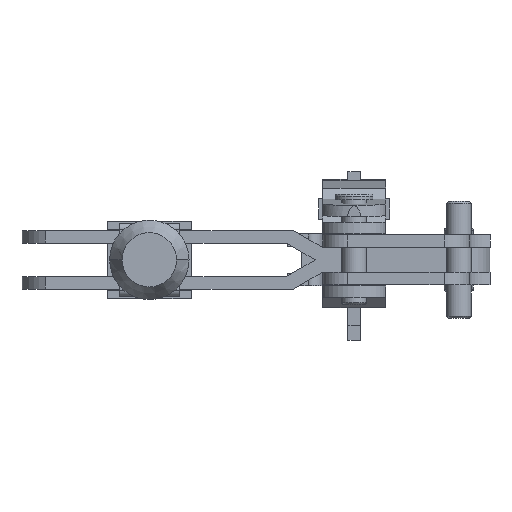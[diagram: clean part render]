
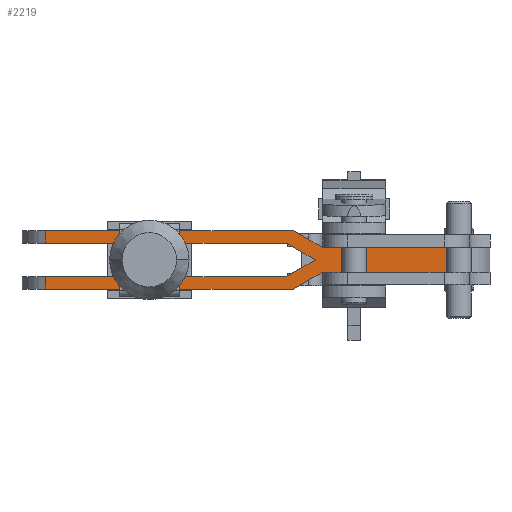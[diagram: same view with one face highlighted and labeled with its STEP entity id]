
A CAD part, front view. The second image highlights one B-rep face of the part: STEP entity #2219.
In plain terms, the highlighted planar face has unit normal (0, -1, 0).
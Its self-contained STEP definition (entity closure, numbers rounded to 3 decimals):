
#1913 = EDGE_CURVE( '', #2259, #5529, #5587, .T. );
#2087 = VERTEX_POINT( '', #5774 );
#2187 = EDGE_CURVE( '', #2515, #4059, #5887, .T. );
#2219 = ADVANCED_FACE( '', ( #5923 ), #5924, .T. );
#2253 = EDGE_CURVE( '', #4641, #2087, #5960, .T. );
#2259 = VERTEX_POINT( '', #5966 );
#2473 = EDGE_CURVE( '', #2919, #2515, #6205, .T. );
#2491 = EDGE_CURVE( '', #3549, #2919, #6224, .T. );
#2515 = VERTEX_POINT( '', #6250 );
#2881 = VERTEX_POINT( '', #6666 );
#2919 = VERTEX_POINT( '', #6706 );
#3335 = EDGE_CURVE( '', #4641, #4857, #7162, .T. );
#3495 = VERTEX_POINT( '', #7340 );
#3549 = VERTEX_POINT( '', #7402 );
#3555 = EDGE_CURVE( '', #4059, #4311, #7408, .T. );
#3627 = EDGE_CURVE( '', #2881, #3961, #7487, .T. );
#3949 = EDGE_CURVE( '', #3495, #2087, #7842, .T. );
#3961 = VERTEX_POINT( '', #7855 );
#4059 = VERTEX_POINT( '', #7966 );
#4311 = VERTEX_POINT( '', #8243 );
#4615 = EDGE_CURVE( '', #4857, #3961, #8587, .T. );
#4641 = VERTEX_POINT( '', #8616 );
#4857 = VERTEX_POINT( '', #8856 );
#4885 = EDGE_CURVE( '', #2881, #2259, #8885, .T. );
#4981 = EDGE_CURVE( '', #4311, #3495, #8994, .T. );
#5129 = EDGE_CURVE( '', #5529, #3549, #9158, .T. );
#5529 = VERTEX_POINT( '', #9601 );
#5587 = LINE( '', #9666, #9667 );
#5774 = CARTESIAN_POINT( '', ( 34.359, 50.5, -3. ) );
#5887 = LINE( '', #10090, #10091 );
#5923 = FACE_OUTER_BOUND( '', #10152, .T. );
#5924 = PLANE( '', #10153 );
#5960 = LINE( '', #10200, #10201 );
#5966 = CARTESIAN_POINT( '', ( -66.359, 50.5, 4. ) );
#6205 = LINE( '', #10541, #10542 );
#6224 = LINE( '', #10575, #10576 );
#6250 = CARTESIAN_POINT( '', ( -66.359, 50.5, -4. ) );
#6666 = CARTESIAN_POINT( '', ( -66.359, 50.5, 7. ) );
#6706 = CARTESIAN_POINT( '', ( -8.732, 50.5, -4. ) );
#7162 = LINE( '', #11942, #11943 );
#7340 = CARTESIAN_POINT( '', ( -0.134, 50.5, -3. ) );
#7402 = CARTESIAN_POINT( '', ( -1.804, 50.5, 0. ) );
#7408 = LINE( '', #12305, #12306 );
#7487 = LINE( '', #12413, #12414 );
#7842 = LINE( '', #12905, #12906 );
#7855 = CARTESIAN_POINT( '', ( -7.062, 50.5, 7. ) );
#7966 = CARTESIAN_POINT( '', ( -66.359, 50.5, -7. ) );
#8243 = CARTESIAN_POINT( '', ( -7.062, 50.5, -7. ) );
#8587 = LINE( '', #13972, #13973 );
#8616 = CARTESIAN_POINT( '', ( 34.359, 50.5, 3. ) );
#8856 = CARTESIAN_POINT( '', ( -0.134, 50.5, 3. ) );
#8885 = LINE( '', #14393, #14394 );
#8994 = LINE( '', #14555, #14556 );
#9158 = LINE( '', #14784, #14785 );
#9601 = CARTESIAN_POINT( '', ( -8.732, 50.5, 4. ) );
#9666 = CARTESIAN_POINT( '', ( -71.929, 50.5, 4. ) );
#9667 = VECTOR( '', #15452, 1. );
#10090 = CARTESIAN_POINT( '', ( -66.359, 50.5, 7. ) );
#10091 = VECTOR( '', #15789, 1. );
#10152 = EDGE_LOOP( '', ( #15833, #15834, #15835, #15836, #15837, #15838, #15839, #15840, #15841, #15842, #15843, #15844, #15845 ) );
#10153 = AXIS2_PLACEMENT_3D( '', #15846, #15847, #15848 );
#10200 = CARTESIAN_POINT( '', ( 34.359, 50.5, 7. ) );
#10201 = VECTOR( '', #15875, 1. );
#10541 = CARTESIAN_POINT( '', ( -37.545, 50.5, -4. ) );
#10542 = VECTOR( '', #16145, 1. );
#10575 = CARTESIAN_POINT( '', ( -24.496, 50.5, -13.102 ) );
#10576 = VECTOR( '', #16163, 1. );
#11942 = CARTESIAN_POINT( '', ( 8.071, 50.5, 3. ) );
#11943 = VECTOR( '', #17198, 1. );
#12305 = CARTESIAN_POINT( '', ( -66.359, 50.5, -7. ) );
#12306 = VECTOR( '', #17484, 1. );
#12413 = CARTESIAN_POINT( '', ( -66.359, 50.5, 7. ) );
#12414 = VECTOR( '', #17558, 1. );
#12905 = CARTESIAN_POINT( '', ( -33.246, 50.5, -3. ) );
#12906 = VECTOR( '', #17967, 1. );
#13972 = CARTESIAN_POINT( '', ( -25.834, 50.5, 17.838 ) );
#13973 = VECTOR( '', #18856, 1. );
#14393 = CARTESIAN_POINT( '', ( -66.359, 50.5, 7. ) );
#14394 = VECTOR( '', #19181, 1. );
#14555 = CARTESIAN_POINT( '', ( -26.267, 50.5, -18.088 ) );
#14556 = VECTOR( '', #19287, 1. );
#14784 = CARTESIAN_POINT( '', ( -30.992, 50.5, 16.852 ) );
#14785 = VECTOR( '', #19484, 1. );
#15452 = DIRECTION( '', ( 1., 0., 0. ) );
#15789 = DIRECTION( '', ( 0., 0., -1. ) );
#15833 = ORIENTED_EDGE( '', *, *, #3949, .T. );
#15834 = ORIENTED_EDGE( '', *, *, #2253, .F. );
#15835 = ORIENTED_EDGE( '', *, *, #3335, .T. );
#15836 = ORIENTED_EDGE( '', *, *, #4615, .T. );
#15837 = ORIENTED_EDGE( '', *, *, #3627, .F. );
#15838 = ORIENTED_EDGE( '', *, *, #4885, .T. );
#15839 = ORIENTED_EDGE( '', *, *, #1913, .T. );
#15840 = ORIENTED_EDGE( '', *, *, #5129, .T. );
#15841 = ORIENTED_EDGE( '', *, *, #2491, .T. );
#15842 = ORIENTED_EDGE( '', *, *, #2473, .T. );
#15843 = ORIENTED_EDGE( '', *, *, #2187, .T. );
#15844 = ORIENTED_EDGE( '', *, *, #3555, .T. );
#15845 = ORIENTED_EDGE( '', *, *, #4981, .T. );
#15846 = CARTESIAN_POINT( '', ( -66.359, 50.5, 7. ) );
#15847 = DIRECTION( '', ( 0., -1., 0. ) );
#15848 = DIRECTION( '', ( -1., 0., 0. ) );
#15875 = DIRECTION( '', ( 0., 0., -1. ) );
#16145 = DIRECTION( '', ( -1., 0., 0. ) );
#16163 = DIRECTION( '', ( -0.866, 0., -0.5 ) );
#17198 = DIRECTION( '', ( -1., 0., 0. ) );
#17484 = DIRECTION( '', ( 1., 0., 0. ) );
#17558 = DIRECTION( '', ( 1., 0., 0. ) );
#17967 = DIRECTION( '', ( 1., 0., 0. ) );
#18856 = DIRECTION( '', ( -0.866, 0., 0.5 ) );
#19181 = DIRECTION( '', ( 0., 0., -1. ) );
#19287 = DIRECTION( '', ( 0.866, 0., 0.5 ) );
#19484 = DIRECTION( '', ( 0.866, 0., -0.5 ) );
